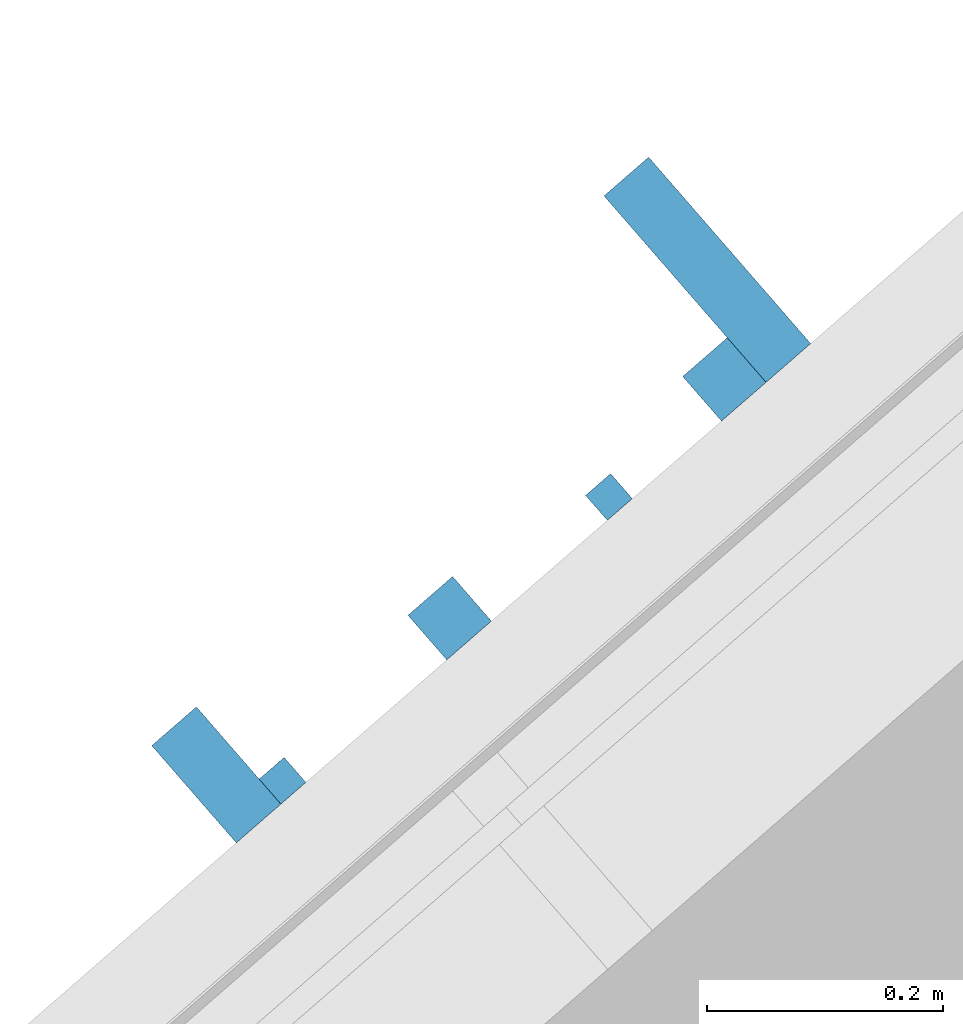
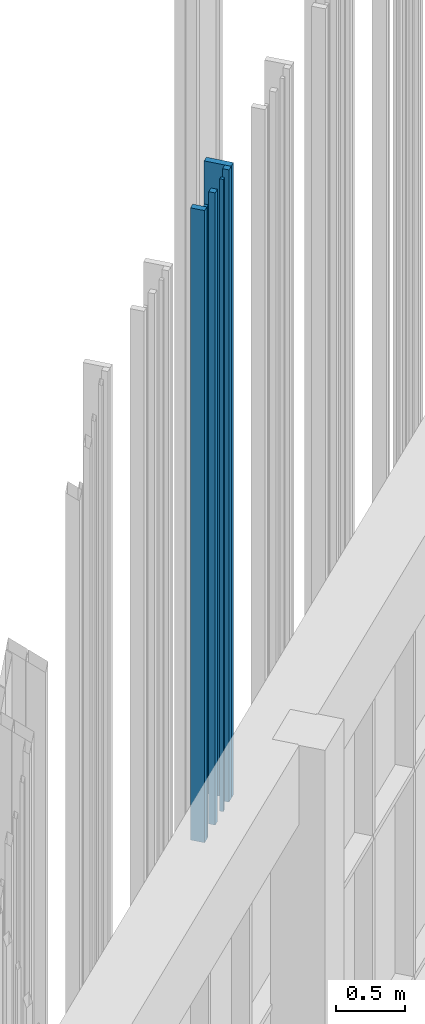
# One storey, part 137 of 390: 6 walls.
"""IFC2X3 building model written with IfcOpenShell, lengths in millimetres."""

from ifc_helpers import new_model, entity, si_unit, converted_unit, derived_unit, money_unit, direction, frame, origin_with_axes, place, context, subcontext, project, spatial, faceted_brep, material, type_object, element, save


model = new_model("IFC2X3")

# Units and contexts
model_context = context("Model", 3, precision=1e-05, world=origin_with_axes(), true_north=direction((0.0, 1.0)))
body_context = subcontext(model_context, "Body", "Model", "MODEL_VIEW")
ifc_project = project(units=[si_unit("LENGTHUNIT", "METRE", prefix="MILLI"), si_unit("AREAUNIT", "SQUARE_METRE"), si_unit("VOLUMEUNIT", "CUBIC_METRE"), converted_unit("PLANEANGLEUNIT", "DEGREE", entity("IfcPlaneAngleMeasure", 0.0174532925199), si_unit("PLANEANGLEUNIT", "RADIAN"), dimensions=[0, 0, 0, 0, 0, 0, 0]), si_unit("SOLIDANGLEUNIT", "STERADIAN"), money_unit("EUR"), converted_unit("TIMEUNIT", "Year", entity("IfcTimeMeasure", 31556926.0), si_unit("TIMEUNIT", "SECOND"), dimensions=[0, 0, 1, 0, 0, 0, 0]), si_unit("MASSUNIT", "GRAM", prefix="KILO"), si_unit("THERMODYNAMICTEMPERATUREUNIT", "DEGREE_CELSIUS"), si_unit("LUMINOUSINTENSITYUNIT", "LUMEN"), si_unit("ENERGYUNIT", "JOULE", prefix="MEGA"), derived_unit("THERMALCONDUCTANCEUNIT", [(si_unit("POWERUNIT", "WATT"), 1), (si_unit("LENGTHUNIT", "METRE"), -1), (si_unit("THERMODYNAMICTEMPERATUREUNIT", "KELVIN"), -1)]), derived_unit("SPECIFICHEATCAPACITYUNIT", [(si_unit("ENERGYUNIT", "JOULE"), 1), (si_unit("MASSUNIT", "GRAM", prefix="KILO"), -1), (si_unit("THERMODYNAMICTEMPERATUREUNIT", "KELVIN"), -1)]), derived_unit("MASSDENSITYUNIT", [(si_unit("MASSUNIT", "GRAM", prefix="KILO"), 1), (si_unit("VOLUMEUNIT", "CUBIC_METRE"), -1)])], contexts=[model_context])

# Site, building, storey
site_placement = place(None, origin_with_axes())
site = spatial("IfcSite", under=ifc_project, at=site_placement, Name="Site", CompositionType="ELEMENT")
building_placement = place(site_placement, origin_with_axes())
building = spatial("IfcBuilding", under=site, at=building_placement, Name="Building", CompositionType="ELEMENT")
storey_placement = place(building_placement, origin_with_axes())
storey = spatial("IfcBuildingStorey", under=building, at=storey_placement, Name="1 korrus", CompositionType="ELEMENT", Elevation=0.0)

# Walls
ifc_material = material(Name="Site specified")
wall_type = type_object("IfcWallType", Name="Puitfassaadi ribistik", PredefinedType="NOTDEFINED")
wall_1_placement = place(storey_placement, frame((126173.615566, 79702.8913162, 4261.31288057), z_axis=(0.0, 0.0, 1.0), x_axis=(0.754709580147, 0.656059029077, 0.0)))
element("IfcWall", 1, at=wall_1_placement, inside=storey, type_object=wall_type, material=ifc_material, Name="Site specified", context=body_context, shape_type="Brep", body=[
    faceted_brep([(14.0, 14.0, 5603.68711943), (14.0, 14.0, 0.0), (-14.0, 14.0, 0.0), (-14.0, 14.0, 5603.68711943), (14.0, -14.0, 5603.68711943), (14.0, -14.0, 0.0), (-14.0, -14.0, 0.0), (-14.0, -14.0, 5603.68711943)], [[[0, 1, 2, 3]], [[4, 5, 1, 0]], [[2, 1, 5, 6]], [[3, 2, 6, 7]], [[4, 0, 3, 7]], [[7, 6, 5, 4]]]),
])
for number, where, z_axis, x_axis, name in (
    (2, (126038.852998, 79600.3191456, 4261.31288057), (0.0, 0.0, 1.0), (0.754709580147, 0.656059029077, 0.0), "Site specified"),
    (3, (126271.303548, 79802.3853266, 4261.31288057), (0.0, 0.0, 1.0), (0.754709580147, 0.656059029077, 0.0), "Site specified"),
):
    element("IfcWall", number, at=place(storey_placement, frame(where, z_axis=z_axis, x_axis=x_axis)), inside=storey, type_object=wall_type, material=ifc_material, Name=name, context=body_context, shape_type="Brep", body=[
        faceted_brep([(25.0, 25.0, 5603.68711943), (25.0, 25.0, 0.0), (-25.0, 25.0, 0.0), (-25.0, 25.0, 5603.68711943), (25.0, -25.0, 5603.68711943), (25.0, -25.0, 0.0), (-25.0, -25.0, 0.0), (-25.0, -25.0, 5603.68711943)], [[[0, 1, 2, 3]], [[4, 5, 1, 0]], [[2, 1, 5, 6]], [[3, 2, 6, 7]], [[4, 0, 3, 7]], [[7, 6, 5, 4]]]),
    ])
wall_2_placement = place(storey_placement, frame((125897.39186, 79462.7737115, 4261.31288057), z_axis=(0.0, 0.0, 1.0), x_axis=(0.754709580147, 0.656059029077, 0.0)))
element("IfcWall", 4, at=wall_2_placement, inside=storey, type_object=wall_type, material=ifc_material, Name="Site specified", context=body_context, shape_type="Brep", body=[
    faceted_brep([(14.0, 14.0, 5603.68711943), (14.0, 14.0, 0.0), (-14.0, 14.0, 0.0), (-14.0, 14.0, 5603.68711943), (14.0, -14.0, 5603.68711943), (14.0, -14.0, 0.0), (-14.0, -14.0, 0.0), (-14.0, -14.0, 5603.68711943)], [[[0, 1, 2, 3]], [[4, 5, 1, 0]], [[2, 1, 5, 6]], [[3, 2, 6, 7]], [[4, 0, 3, 7]], [[7, 6, 5, 4]]]),
])
wall_3_placement = place(storey_placement, frame((125841.387795, 79467.7531474, 4261.31288057), z_axis=(0.0, 0.0, 1.0), x_axis=(0.754709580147, 0.656059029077, 0.0)))
element("IfcWall", 5, at=wall_3_placement, inside=storey, type_object=wall_type, material=ifc_material, Name="Site specified", context=body_context, shape_type="Brep", body=[
    faceted_brep([(25.0, 54.5, 5603.68711943), (25.0, 54.5, 0.0), (-25.0, 54.5, 0.0), (-25.0, 54.5, 5603.68711943), (25.0, -54.5, 5603.68711943), (25.0, -54.5, 0.0), (-25.0, -54.5, 0.0), (-25.0, -54.5, 5603.68711943)], [[[0, 1, 2, 3]], [[4, 5, 1, 0]], [[2, 1, 5, 6]], [[3, 2, 6, 7]], [[4, 0, 3, 7]], [[7, 6, 5, 4]]]),
])
wall_4_placement = place(storey_placement, frame((126256.882334, 79895.1876897, 4261.31288057), z_axis=(0.0, 0.0, 1.0), x_axis=(0.754709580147, 0.656059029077, 0.0)))
element("IfcWall", 6, at=wall_4_placement, inside=storey, type_object=wall_type, material=ifc_material, Name="Site specified", context=body_context, shape_type="Brep", body=[
    faceted_brep([(25.0, 104.5, 5603.68711943), (25.0, 104.5, 0.0), (-25.0, 104.5, 0.0), (-25.0, 104.5, 5603.68711943), (25.0, -104.5, 5603.68711943), (25.0, -104.5, 0.0), (-25.0, -104.5, 0.0), (-25.0, -104.5, 5603.68711943)], [[[0, 1, 2, 3]], [[4, 5, 1, 0]], [[2, 1, 5, 6]], [[3, 2, 6, 7]], [[4, 0, 3, 7]], [[7, 6, 5, 4]]]),
])

save(model, "model.ifc")
